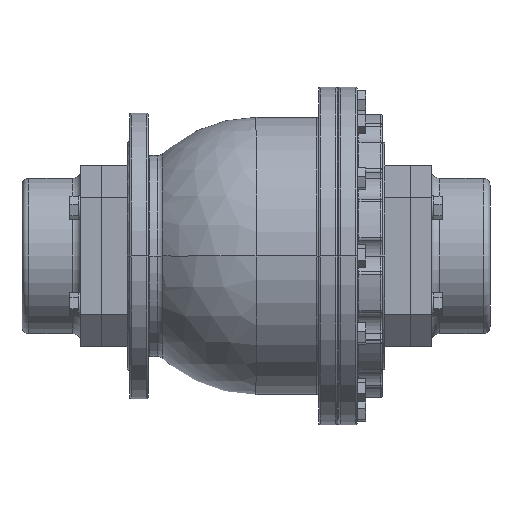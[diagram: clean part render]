
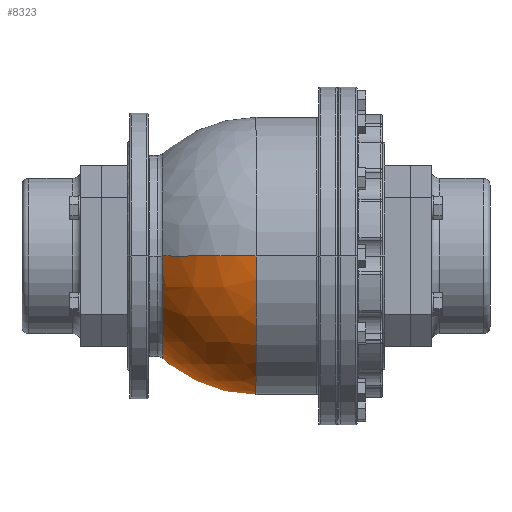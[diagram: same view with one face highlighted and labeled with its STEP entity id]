
A CAD part, front view. The second image highlights one B-rep face of the part: STEP entity #8323.
In plain terms, the highlighted spherical face has radius 165 mm.
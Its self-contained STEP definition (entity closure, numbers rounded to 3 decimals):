
#99 = VERTEX_POINT ( 'NONE', #26506 ) ;
#1275 = VERTEX_POINT ( 'NONE', #27300 ) ;
#1278 = VERTEX_POINT ( 'NONE', #27303 ) ;
#1973 = CARTESIAN_POINT ( 'NONE',  ( -110.709, 0., 0. ) ) ;
#1974 = DIRECTION ( 'NONE',  ( 1., 0., 0. ) ) ;
#1975 = DIRECTION ( 'NONE',  ( 0., 1., 0. ) ) ;
#4228 = CIRCLE ( 'NONE', #10050, 165. ) ;
#4540 = CIRCLE ( 'NONE', #4558, 122.346 ) ;
#4558 = AXIS2_PLACEMENT_3D ( 'NONE', #1973, #1974, #1975 ) ;
#5320 = CARTESIAN_POINT ( 'NONE',  ( 0., 0., 0. ) ) ;
#5321 = DIRECTION ( 'NONE',  ( 1., 0., 0. ) ) ;
#5322 = DIRECTION ( 'NONE',  ( 0., 1., 0. ) ) ;
#5355 = CARTESIAN_POINT ( 'NONE',  ( 0., 159.24, 0. ) ) ;
#5356 = DIRECTION ( 'NONE',  ( 0., -1., 0. ) ) ;
#5357 = DIRECTION ( 'NONE',  ( 0., 0., -1. ) ) ;
#7441 = CIRCLE ( 'NONE', #9583, 43.214 ) ;
#8323 = ADVANCED_FACE ( 'NONE', ( #15638 ), #15639, .T. ) ;
#9583 = AXIS2_PLACEMENT_3D ( 'NONE', #5355, #5356, #5357 ) ;
#9994 = CIRCLE ( 'NONE', #10010, 165. ) ;
#10010 = AXIS2_PLACEMENT_3D ( 'NONE', #22471, #22473, #22474 ) ;
#10050 = AXIS2_PLACEMENT_3D ( 'NONE', #5320, #5321, #5322 ) ;
#10767 = VERTEX_POINT ( 'NONE', #13034 ) ;
#10770 = VERTEX_POINT ( 'NONE', #13041 ) ;
#13034 = CARTESIAN_POINT ( 'NONE',  ( -110.709, -122.346, 0. ) ) ;
#13041 = CARTESIAN_POINT ( 'NONE',  ( -110.709, 122.346, 0. ) ) ;
#15635 = CARTESIAN_POINT ( 'NONE',  ( 0., 0., 0. ) ) ;
#15638 = FACE_OUTER_BOUND ( 'NONE', #26217, .T. ) ;
#15639 = SPHERICAL_SURFACE ( 'NONE', #27530, 165. ) ;
#15641 = DIRECTION ( 'NONE',  ( 0., 0., 1. ) ) ;
#15642 = DIRECTION ( 'NONE',  ( 0., 1., 0. ) ) ;
#16551 = ORIENTED_EDGE ( 'NONE', *, *, #19926, .F. ) ;
#16552 = ORIENTED_EDGE ( 'NONE', *, *, #17185, .T. ) ;
#16553 = ORIENTED_EDGE ( 'NONE', *, *, #20284, .T. ) ;
#16554 = ORIENTED_EDGE ( 'NONE', *, *, #19064, .T. ) ;
#16560 = ORIENTED_EDGE ( 'NONE', *, *, #19062, .F. ) ;
#17185 = EDGE_CURVE ( 'NONE', #10770, #1278, #9994, .T. ) ;
#19062 = EDGE_CURVE ( 'NONE', #1275, #99, #4228, .T. ) ;
#19064 = EDGE_CURVE ( 'NONE', #1278, #99, #7441, .T. ) ;
#19926 = EDGE_CURVE ( 'NONE', #10767, #1275, #21617, .T. ) ;
#20284 = EDGE_CURVE ( 'NONE', #10767, #10770, #4540, .T. ) ;
#21617 = CIRCLE ( 'NONE', #21626, 165. ) ;
#21626 = AXIS2_PLACEMENT_3D ( 'NONE', #25752, #25753, #25754 ) ;
#22471 = CARTESIAN_POINT ( 'NONE',  ( 0., 0., 0. ) ) ;
#22473 = DIRECTION ( 'NONE',  ( 0., 0., -1. ) ) ;
#22474 = DIRECTION ( 'NONE',  ( -1., 0., 0. ) ) ;
#25752 = CARTESIAN_POINT ( 'NONE',  ( 0., 0., 0. ) ) ;
#25753 = DIRECTION ( 'NONE',  ( 0., 0., 1. ) ) ;
#25754 = DIRECTION ( 'NONE',  ( 0., -1., 0. ) ) ;
#26217 = EDGE_LOOP ( 'NONE', ( #16551, #16553, #16552, #16554, #16560 ) ) ;
#26506 = CARTESIAN_POINT ( 'NONE',  ( 0., 159.24, -43.214 ) ) ;
#27300 = CARTESIAN_POINT ( 'NONE',  ( 0., -165., 0. ) ) ;
#27303 = CARTESIAN_POINT ( 'NONE',  ( -43.214, 159.24, 0. ) ) ;
#27530 = AXIS2_PLACEMENT_3D ( 'NONE', #15635, #15641, #15642 ) ;
